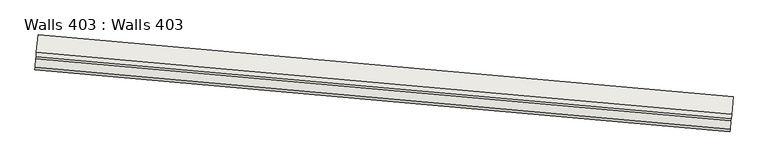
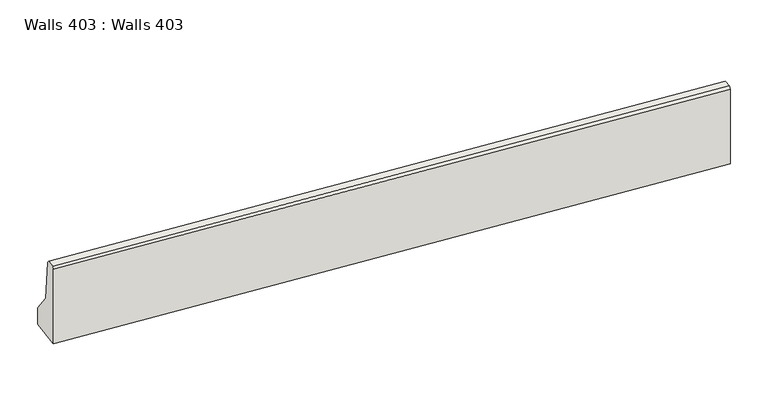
"""IFC4 building model written with IfcOpenShell, lengths in millimetres: wall geometry, Walls 403 : Walls 403."""

from ifc_helpers import new_model, si_unit, frame, origin, place, context, project, spatial, polyline, outline, extrude, source, transform, mapped, element, save


def walls_403_walls_403_a59bfdf2(model_context):
    return source(origin(), model_context, "Body", "SweptSolid", [
        extrude(outline(polyline([(638180.0, 400.0), (638430.0, 199.9999999), (638935.0, 150.0), (638960.0, 125.0), (638960.0, 24.9999999), (638935.0, 0.0), (637960.0, 0.0), (637960.0, 400.0), (638180.0, 400.0)])), frame((-547174.0815693, -430333.4356449, 0.0), z_axis=(-0.9960550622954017, 0.08873732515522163, 0.0), x_axis=(0.0, 0.0, 1.0)), (0.0, 0.0, 1.0), 7999.9999999),
    ])


if __name__ == "__main__":
    model = new_model("IFC4")
    model_context = context("Model", 3, world=origin())
    ifc_project = project(units=[si_unit("LENGTHUNIT", "METRE", prefix="MILLI")], contexts=[model_context])
    site = spatial("IfcSite", under=ifc_project)
    building = spatial("IfcBuilding", under=site)
    placement = place(None, origin())
    walls_403_walls_403_shape = walls_403_walls_403_a59bfdf2(model_context)
    element("IfcWall", 1, ObjectType="Walls 403 : Walls 403", at=placement, inside=building, context=model_context, shape_type="MappedRepresentation", body=[
        mapped(walls_403_walls_403_shape, transform((0.0, 0.0, 0.0), x_axis=(1.0, 0.0, 0.0), y_axis=(0.0, 1.0, 0.0), z_axis=(0.0, 0.0, 1.0))),
    ])
    save(model, "model.ifc")
